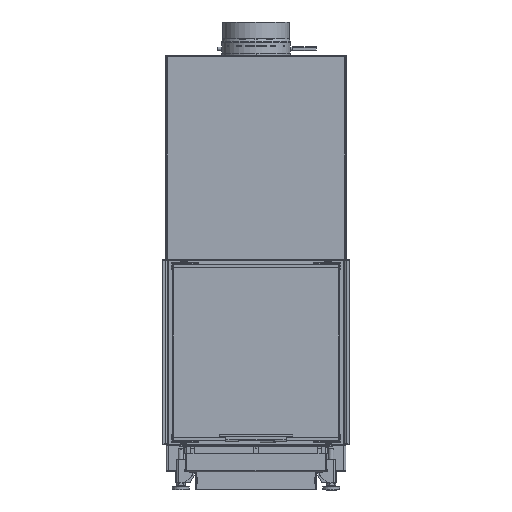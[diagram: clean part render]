
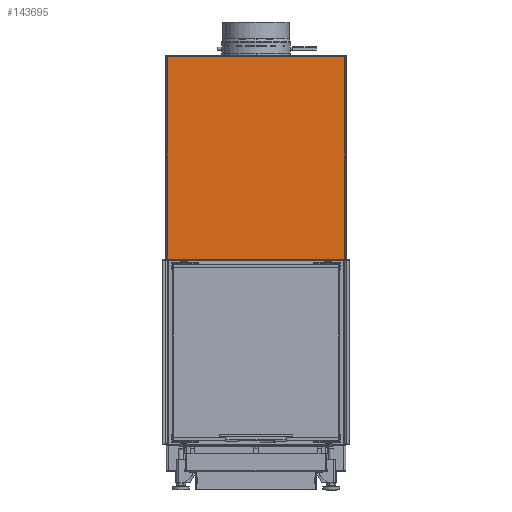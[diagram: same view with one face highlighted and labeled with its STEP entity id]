
A CAD part, front view. The second image highlights one B-rep face of the part: STEP entity #143695.
In plain terms, the highlighted planar face has unit normal (0, -1, 0).
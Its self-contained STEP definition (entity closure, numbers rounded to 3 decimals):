
#3374=LINE('',#219354,#17511);
#3379=LINE('',#219442,#17516);
#3387=LINE('',#219661,#17524);
#3388=LINE('',#219663,#17525);
#3389=LINE('',#219667,#17526);
#3392=LINE('',#219673,#17529);
#17511=VECTOR('',#170884,10.);
#17516=VECTOR('',#170901,10.);
#17524=VECTOR('',#170923,10.);
#17525=VECTOR('',#170926,10.);
#17526=VECTOR('',#170933,10.);
#17529=VECTOR('',#170942,10.);
#30100=PLANE('',#152667);
#37947=FACE_OUTER_BOUND('',#45839,.T.);
#45839=EDGE_LOOP('',(#102156,#102157,#102158,#102159,#102160,#102161));
#62396=VERTEX_POINT('',#219335);
#62397=VERTEX_POINT('',#219346);
#62403=VERTEX_POINT('',#219435);
#62405=VERTEX_POINT('',#219441);
#62414=VERTEX_POINT('',#219652);
#62415=VERTEX_POINT('',#219659);
#77243=EDGE_CURVE('',#62397,#62396,#3374,.T.);
#77255=EDGE_CURVE('',#62405,#62396,#3379,.T.);
#77279=EDGE_CURVE('',#62414,#62415,#3387,.T.);
#77280=EDGE_CURVE('',#62403,#62405,#3388,.T.);
#77282=EDGE_CURVE('',#62415,#62403,#3389,.T.);
#77286=EDGE_CURVE('',#62397,#62414,#3392,.T.);
#102156=ORIENTED_EDGE('',*,*,#77280,.T.);
#102157=ORIENTED_EDGE('',*,*,#77255,.T.);
#102158=ORIENTED_EDGE('',*,*,#77243,.F.);
#102159=ORIENTED_EDGE('',*,*,#77286,.T.);
#102160=ORIENTED_EDGE('',*,*,#77279,.T.);
#102161=ORIENTED_EDGE('',*,*,#77282,.T.);
#143695=ADVANCED_FACE('',(#37947),#30100,.T.);
#152667=AXIS2_PLACEMENT_3D('',#219672,#170940,#170941);
#170884=DIRECTION('',(1.,0.,0.));
#170901=DIRECTION('',(0.,0.,1.));
#170923=DIRECTION('',(0.,0.,-1.));
#170926=DIRECTION('',(0.,0.,1.));
#170933=DIRECTION('',(1.,0.,0.));
#170940=DIRECTION('center_axis',(0.,-1.,0.));
#170941=DIRECTION('ref_axis',(1.,0.,0.));
#170942=DIRECTION('',(0.,0.,-1.));
#219335=CARTESIAN_POINT('',(265.75,-328.496,1242.25));
#219346=CARTESIAN_POINT('',(-265.75,-328.496,1242.25));
#219354=CARTESIAN_POINT('',(0.,-328.496,1242.25));
#219435=CARTESIAN_POINT('',(265.75,-328.496,635.25));
#219441=CARTESIAN_POINT('',(265.75,-328.496,1241.57));
#219442=CARTESIAN_POINT('',(265.75,-328.496,808.846));
#219652=CARTESIAN_POINT('',(-265.75,-328.496,1241.57));
#219659=CARTESIAN_POINT('',(-265.75,-328.496,635.25));
#219661=CARTESIAN_POINT('',(-265.75,-328.496,1112.346));
#219663=CARTESIAN_POINT('',(265.75,-328.496,808.846));
#219667=CARTESIAN_POINT('',(134.25,-328.496,635.25));
#219672=CARTESIAN_POINT('Origin',(0.,-328.496,
982.441));
#219673=CARTESIAN_POINT('',(-265.75,-328.496,1112.346));
